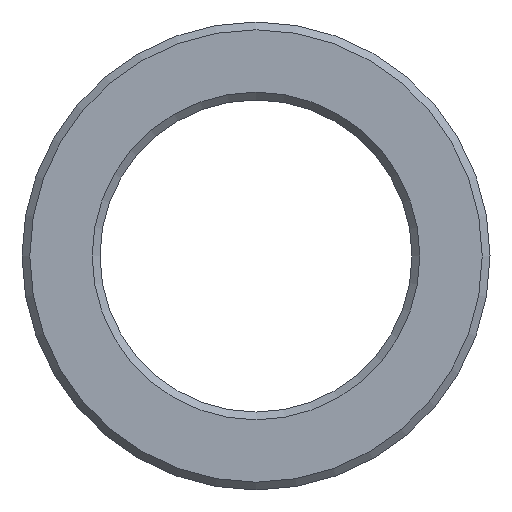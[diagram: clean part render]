
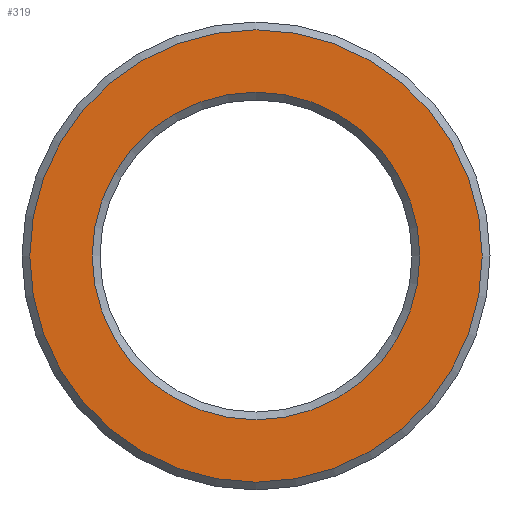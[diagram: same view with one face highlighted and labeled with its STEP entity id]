
A CAD part, left-side view. The second image highlights one B-rep face of the part: STEP entity #319.
In plain terms, the highlighted planar face has unit normal (-1, 0, 0).
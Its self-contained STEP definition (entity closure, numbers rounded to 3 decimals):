
#277=CARTESIAN_POINT('',(-22.5,14.5,0.));
#278=VERTEX_POINT('',#277);
#279=CARTESIAN_POINT('',(-22.5,0.0,0.0));
#280=DIRECTION('',(1.0,0.0,0.0));
#281=DIRECTION('',(0.0,-1.0,0.0));
#282=AXIS2_PLACEMENT_3D('',#279,#280,#281);
#283=CIRCLE('',#282,14.5);
#284=EDGE_CURVE('',#278,#278,#283,.T.);
#300=CARTESIAN_POINT('',(-22.5,12.5,0.0));
#301=DIRECTION('',(-1.0,0.0,0.0));
#302=DIRECTION('',(0.0,0.0,1.0));
#303=AXIS2_PLACEMENT_3D('',#300,#301,#302);
#304=PLANE('',#303);
#305=ORIENTED_EDGE('',*,*,#284,.F.);
#306=EDGE_LOOP('',(#305));
#307=FACE_OUTER_BOUND('',#306,.T.);
#308=CARTESIAN_POINT('',(-22.5,10.5,0.));
#309=VERTEX_POINT('',#308);
#310=CARTESIAN_POINT('',(-22.5,0.0,0.0));
#311=DIRECTION('',(-1.0,0.0,0.0));
#312=DIRECTION('',(0.0,-1.0,0.0));
#313=AXIS2_PLACEMENT_3D('',#310,#311,#312);
#314=CIRCLE('',#313,10.5);
#315=EDGE_CURVE('',#309,#309,#314,.T.);
#316=ORIENTED_EDGE('',*,*,#315,.F.);
#317=EDGE_LOOP('',(#316));
#318=FACE_BOUND('',#317,.T.);
#319=ADVANCED_FACE('',(#307,#318),#304,.T.);
